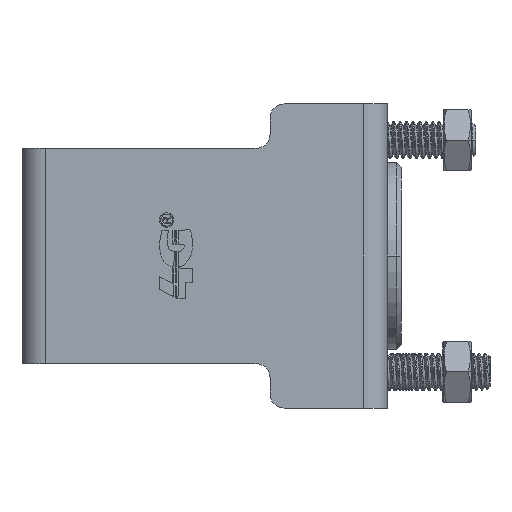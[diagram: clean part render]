
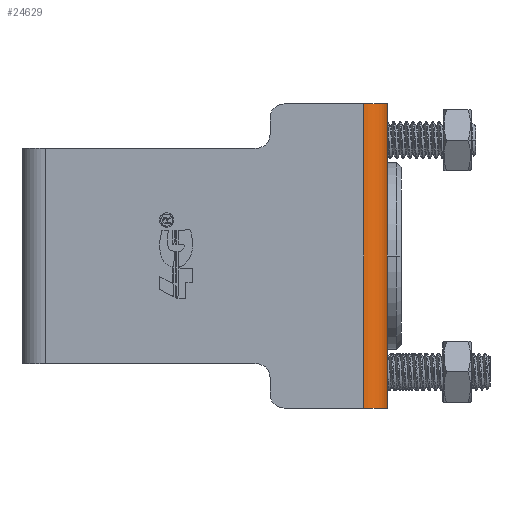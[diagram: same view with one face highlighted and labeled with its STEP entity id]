
A CAD part, left-side view. The second image highlights one B-rep face of the part: STEP entity #24629.
In plain terms, the highlighted cylindrical face has radius 5 mm (diameter 10 mm), a partial arc.
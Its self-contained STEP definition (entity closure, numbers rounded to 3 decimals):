
#5108=DIRECTION('',(0.,0.,-1.));
#5109=VECTOR('',#5108,65.);
#5110=CARTESIAN_POINT('',(-40.,0.,32.5));
#5111=LINE('',#5110,#5109);
#9951=CARTESIAN_POINT('',(-40.,5.,32.5));
#9952=DIRECTION('',(0.,0.,1.));
#9953=DIRECTION('',(-1.,0.,0.));
#9954=AXIS2_PLACEMENT_3D('',#9951,#9952,#9953);
#9974=DIRECTION('',(0.,0.,-1.));
#9975=VECTOR('',#9974,65.);
#9976=CARTESIAN_POINT('',(-45.,5.,32.5));
#9977=LINE('',#9976,#9975);
#10884=CARTESIAN_POINT('',(-40.,5.,-32.5));
#10885=DIRECTION('',(0.,0.,-1.));
#10886=DIRECTION('',(0.,-1.,0.));
#10887=AXIS2_PLACEMENT_3D('',#10884,#10885,#10886);
#15060=CARTESIAN_POINT('',(-40.,0.,-32.5));
#15061=CARTESIAN_POINT('',(-45.,5.,-32.5));
#15062=VERTEX_POINT('',#15060);
#15063=VERTEX_POINT('',#15061);
#15064=CARTESIAN_POINT('',(-45.,5.,32.5));
#15065=VERTEX_POINT('',#15064);
#15066=CARTESIAN_POINT('',(-40.,0.,32.5));
#15067=VERTEX_POINT('',#15066);
#24617=CARTESIAN_POINT('',(-40.,5.,32.516));
#24618=DIRECTION('',(0.,0.,-1.));
#24619=DIRECTION('',(0.,-1.,0.));
#24620=AXIS2_PLACEMENT_3D('',#24617,#24618,#24619);
#24621=CYLINDRICAL_SURFACE('',#24620,5.);
#24623=ORIENTED_EDGE('',*,*,#24622,.T.);
#24624=ORIENTED_EDGE('',*,*,#24328,.F.);
#24625=ORIENTED_EDGE('',*,*,#24299,.T.);
#24626=ORIENTED_EDGE('',*,*,#20529,.T.);
#24627=EDGE_LOOP('',(#24623,#24624,#24625,#24626));
#24628=FACE_OUTER_BOUND('',#24627,.F.);
#24629=ADVANCED_FACE('',(#24628),#24621,.T.);
#9955=CIRCLE('',#9954,5.);
#10888=CIRCLE('',#10887,5.);
#20529=EDGE_CURVE('',#15067,#15062,#5111,.T.);
#24299=EDGE_CURVE('',#15065,#15067,#9955,.T.);
#24328=EDGE_CURVE('',#15065,#15063,#9977,.T.);
#24622=EDGE_CURVE('',#15062,#15063,#10888,.T.);
